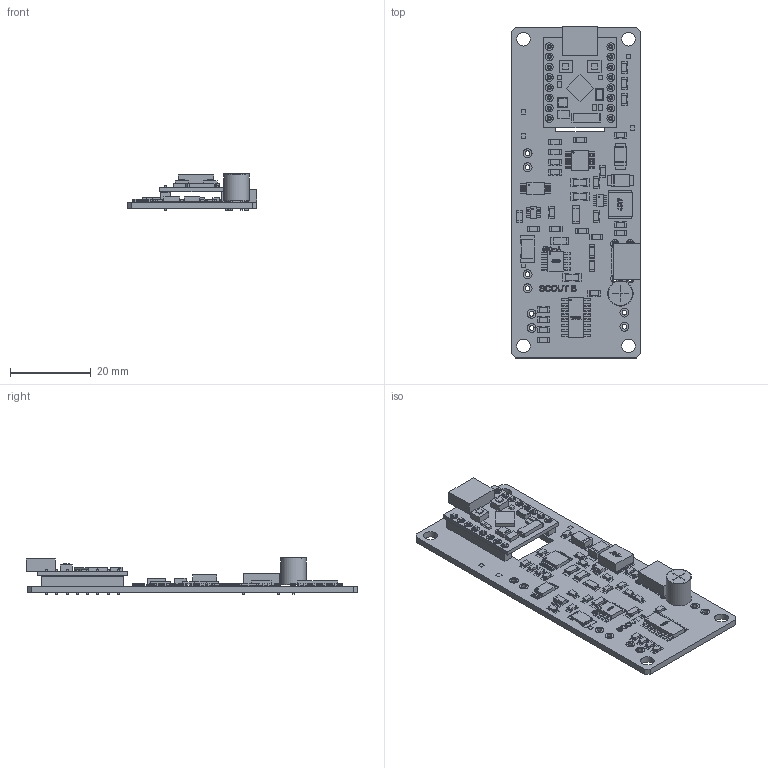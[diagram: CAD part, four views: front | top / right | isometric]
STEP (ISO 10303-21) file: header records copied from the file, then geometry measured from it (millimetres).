
FILE_DESCRIPTION(/* description */ (''),/* implementation_level */ '2;1');
FILE_NAME(/* name */ 'Populated-Carrier-RevB-Mechanical.step',/* time_stamp */ '2026-10-04T16:00:23-04:00',/* author */ (''),/* organization */ (''),/* preprocessor_version */ 'ST-DEVELOPER v20.2',/* originating_system */ 'Autodesk Translation Framework v15.15.0.0',/* authorisation */ '');
FILE_SCHEMA (('AUTOMOTIVE_DESIGN { 1 0 10303 214 3 1 1 }'));
Products named in the file (49): (Unsaved); 23 ESP32-C3 SUPERMINI - measured-outline reconstruction; 41 U2 - TC1508A; 41 U3 - TP4056-42-ESOP8; 41 U4 - DW01A-G; 41 Q1 - FS8205A (Fortune TSSOP8); 41 U5 - MT3608; 41 U6 - TXU0104PWR; 41 J5 - USB4125-GF-A-0190; 41 F1 - 2A hold PTC; 41 C1 - 100uF 10V low ESR; 41 C2 - 100nF 25V X7R; 41 C3 - 10uF 16V X7R; 41 C4 - 10uF 10V X7R; 41 R1 - 2.4k 1% (500mA); 41 R2 - 5.1k 1%; 41 R3 - 5.1k 1%; 41 D1 - RED / CHARGING; 41 D2 - GREEN / FULL; 41 R4 - 1k; 41 R5 - 1k; 41 R6 - 100R; 41 R7 - 1k; 41 C5 - 100nF 25V X7R; 41 L1 - 4.7uH shielded >=3A sat; 41 D3 - SS34 3A Schottky; 41 D4 - SS34 3A isolation; 41 C6 - 22uF 10V X7R; 41 C7 - 22uF 10V X7R; 41 C8 - 22uF 10V X7R; 41 R8 - 75k 1%; 41 R9 - 10k 1%; 41 R10 - 10k; 41 R11 - 10k; 41 R12 - 10k; 41 R13 - 10k; 41 R14 - 100k; 41 R15 - 100k; 41 R16 - 100k; 41 R17 - 100k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
Assembly tree (48 placements, depth 2):
  (Unsaved)
    23 ESP32-C3 SUPERMINI - measured-outline reconstruction
    41 U2 - TC1508A
    41 U3 - TP4056-42-ESOP8
    41 U4 - DW01A-G
    41 Q1 - FS8205A (Fortune TSSOP8)
    41 U5 - MT3608
    41 U6 - TXU0104PWR
    41 J5 - USB4125-GF-A-0190
    41 F1 - 2A hold PTC
    41 C1 - 100uF 10V low ESR
    41 C2 - 100nF 25V X7R
    41 C3 - 10uF 16V X7R
    41 C4 - 10uF 10V X7R
    41 R1 - 2.4k 1% (500mA)
    41 R2 - 5.1k 1%
    41 R3 - 5.1k 1%
    41 D1 - RED / CHARGING
    41 D2 - GREEN / FULL
    41 R4 - 1k
    41 R5 - 1k
    41 R6 - 100R
    41 R7 - 1k
    41 C5 - 100nF 25V X7R
    41 L1 - 4.7uH shielded >=3A sat
    41 D3 - SS34 3A Schottky
    41 D4 - SS34 3A isolation
    41 C6 - 22uF 10V X7R
    41 C7 - 22uF 10V X7R
    41 C8 - 22uF 10V X7R
    41 R8 - 75k 1%
    41 R9 - 10k 1%
    41 R10 - 10k
    41 R11 - 10k
    41 R12 - 10k
    41 R13 - 10k
    41 R14 - 100k
    41 R15 - 100k
    41 R16 - 100k
    41 R17 - 100k
    41 R18 - 100k
    41 C9 - 100nF 25V X7R
    41 C10 - 100nF 25V X7R
    41 R19 - 330k 1%
    41 R20 - 100k 1%
    41 C11 - 100nF 25V X7R
    41 C12 - 10uF 10V X7R
    42 SUPERMINI SOLDER HEADERS - 2.5 mm spacer
    40 CARRIER PCB - Rev B - M3 clearance
Bounding box: 32 x 82.25 x 9.03 mm (x, y, z)
Volume: 5492.2 mm3; surface area: 10939.3 mm2
Topology: 646 solids, 646 shells, 4193 faces, 8697 edges, 5798 vertices
Faces by surface type: plane 3564, bspline 387, cylinder 242
Full cylindrical faces by diameter (mm): 0.36 x6, 0.8 x6, 1.05 x96, 1.2 x24, 1.35 x12, 1.8 x4, 1.9 x64, 2 x8, 2.2 x16, 3.4 x4, 6 x1, 6.3 x1
Entity records: 111531 total; most frequent: CARTESIAN_POINT 22268, ORIENTED_EDGE 17394, DIRECTION 16213, EDGE_CURVE 8697, LINE 7439, VECTOR 7439, VERTEX_POINT 5798, EDGE_LOOP 4515
